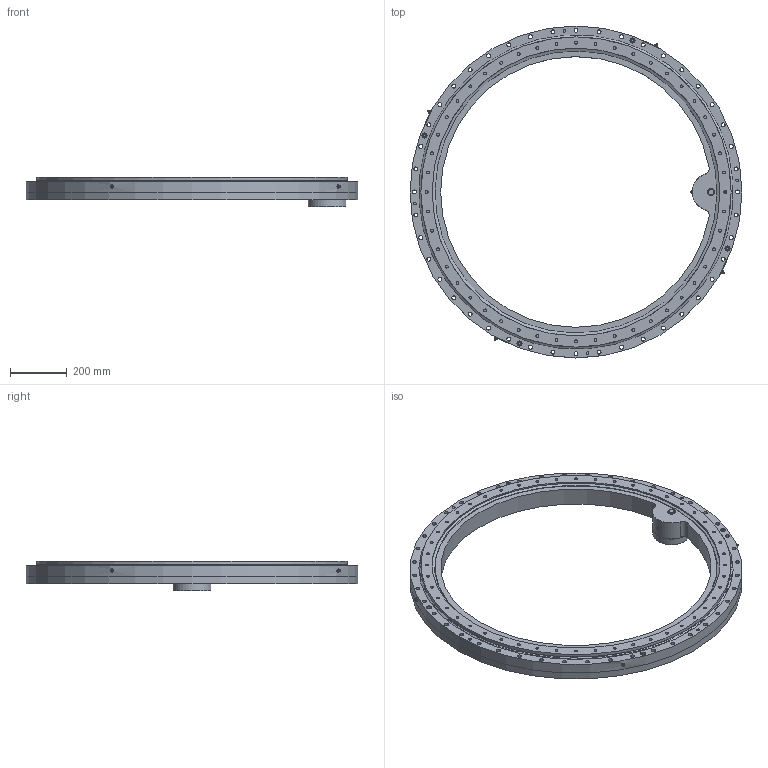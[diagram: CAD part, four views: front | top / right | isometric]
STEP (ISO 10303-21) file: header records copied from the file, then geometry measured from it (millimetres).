
FILE_DESCRIPTION(/* description */ ('STEP AP214'),/* implementation_level */ '2;1');
FILE_NAME(/* name */ '\\Serwer-ad\dnia$\dnia_tomasz_tb\Desktop\Tomcio\1. Cenniki + katalogi + materiały\U- Transmission\Katalogi 2023\Wersja NATECH DRV\Inner gear - slew drive\Our inner gear slew drive STEP\PT-L-1091-I-B-S.stp',/* time_stamp */ '2024-04-30T10:21:52+02:00',/* author */ ('dnia_tomasz_tb'),/* organization */ (''),/* preprocessor_version */ 'ST-DEVELOPER v19',/* originating_system */ 'Autodesk Inventor 2023',/* authorisation */ '');
FILE_SCHEMA (('AUTOMOTIVE_DESIGN { 1 0 10303 214 3 1 1 }'));
Length unit declared in the file: millimetre
Products named in the file (1): PT-L-1091-I-B-S
Bounding box: 1165 x 1165 x 103 mm (x, y, z)
Surface area: 1764814.2 mm2 (no closed solid volume)
Topology: 0 solids, 47 shells, 303 faces, 915 edges, 662 vertices
Faces by surface type: cylinder 179, plane 92, torus 19, cone 13
Full cylindrical faces by diameter (mm): 8.5 x4, 10 x4, 10.2 x52, 14 x44, 15 x8, 16 x44, 18 x4, 21 x1, 25 x1, 45 x1, 65 x1, 66 x1, 82.58 x1, 132 x1, 1010 x1, 1089 x1, 1165 x2
Entity records: 12108 total; most frequent: CARTESIAN_POINT 2532, DIRECTION 2008, ORIENTED_EDGE 1510, EDGE_CURVE 915, AXIS2_PLACEMENT_3D 799, VERTEX_POINT 662, EDGE_LOOP 628, CIRCLE 495
